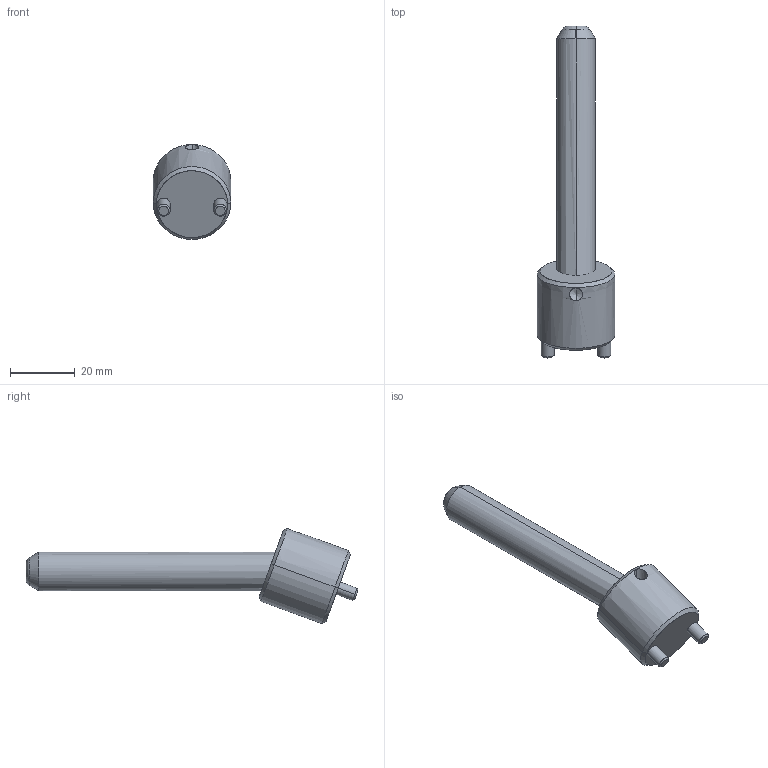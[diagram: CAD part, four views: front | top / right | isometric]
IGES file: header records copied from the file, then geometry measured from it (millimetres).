
Start section: START RECORD GO HERE.
Global section: file name: CI2012075.igs; native system: DASSAULT SYSTEMES CATIA V5 R20 - www.3ds.com; preprocessor: CATIA Version 5 Release 20 ; author: r.borello; organization: CFTORINO; date: 20190621.121551; units: millimetre
Bounding box: 24 x 102.68 x 29.39 mm (x, y, z)
Surface area: 7014.3 mm2 (no closed solid volume)
Topology: 0 solids, 0 shells, 39 faces, 162 edges, 160 vertices
Faces by surface type: revolution 32, plane 7
